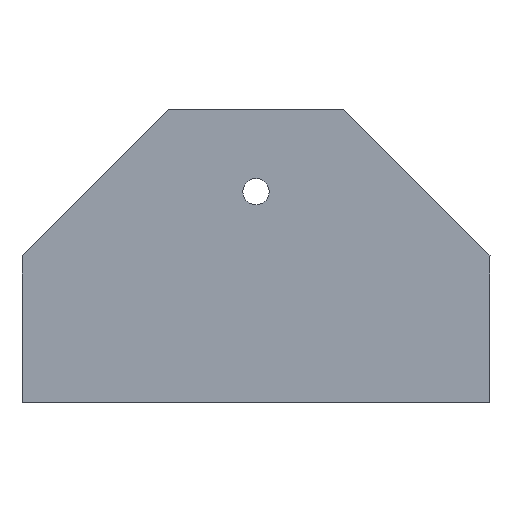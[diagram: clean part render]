
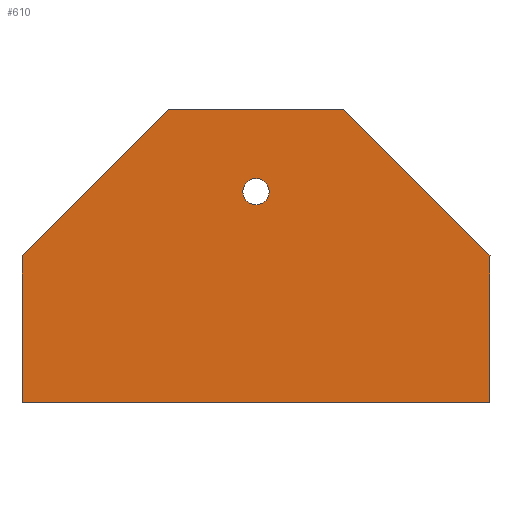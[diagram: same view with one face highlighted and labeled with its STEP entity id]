
A CAD part, top view. The second image highlights one B-rep face of the part: STEP entity #610.
In plain terms, the highlighted planar face has unit normal (0, 0, 1).
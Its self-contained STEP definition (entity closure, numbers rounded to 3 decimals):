
#303=CIRCLE('',#579,4.5);
#322=ORIENTED_EDGE('',*,*,#433,.T.);
#323=ORIENTED_EDGE('',*,*,#435,.T.);
#324=ORIENTED_EDGE('',*,*,#436,.T.);
#325=ORIENTED_EDGE('',*,*,#437,.T.);
#326=ORIENTED_EDGE('',*,*,#438,.T.);
#327=ORIENTED_EDGE('',*,*,#439,.T.);
#328=ORIENTED_EDGE('',*,*,#440,.T.);
#372=VECTOR('',#520,1.);
#374=VECTOR('',#524,1.);
#375=VECTOR('',#525,1.);
#376=VECTOR('',#526,1.);
#377=VECTOR('',#527,1.);
#378=VECTOR('',#528,1.);
#390=LINE('',#646,#372);
#392=LINE('',#650,#374);
#393=LINE('',#652,#375);
#394=LINE('',#654,#376);
#395=LINE('',#656,#377);
#396=LINE('',#657,#378);
#408=VERTEX_POINT('',#643);
#409=VERTEX_POINT('',#645);
#410=VERTEX_POINT('',#649);
#411=VERTEX_POINT('',#651);
#412=VERTEX_POINT('',#653);
#413=VERTEX_POINT('',#655);
#414=VERTEX_POINT('',#658);
#433=EDGE_CURVE('',#409,#408,#390,.T.);
#435=EDGE_CURVE('',#408,#410,#392,.T.);
#436=EDGE_CURVE('',#410,#411,#393,.T.);
#437=EDGE_CURVE('',#411,#412,#394,.T.);
#438=EDGE_CURVE('',#412,#413,#395,.T.);
#439=EDGE_CURVE('',#413,#409,#396,.T.);
#440=EDGE_CURVE('',#414,#414,#303,.T.);
#455=EDGE_LOOP('',(#322,#323,#324,#325,#326,#327));
#456=EDGE_LOOP('',(#328));
#481=FACE_BOUND('',#455,.T.);
#482=FACE_BOUND('',#456,.T.);
#520=DIRECTION('',(0.,-50.,0.));
#522=DIRECTION('',(0.,0.,1.));
#523=DIRECTION('',(0.,-1.,0.));
#524=DIRECTION('',(160.,0.,0.));
#525=DIRECTION('',(0.,50.,0.));
#526=DIRECTION('',(-50.,50.,0.));
#527=DIRECTION('',(-60.,0.,0.));
#528=DIRECTION('',(-50.,-50.,0.));
#529=DIRECTION('',(0.,0.,-1.));
#530=DIRECTION('',(-4.5,0.,0.));
#578=AXIS2_PLACEMENT_3D('',#648,#522,#523);
#579=AXIS2_PLACEMENT_3D('',#659,#529,#530);
#602=PLANE('',#578);
#610=ADVANCED_FACE('',(#481,#482),#602,.T.);
#643=CARTESIAN_POINT('',(-160.,0.,12.));
#645=CARTESIAN_POINT('',(-160.,50.,12.));
#646=CARTESIAN_POINT('',(-160.,50.,12.));
#648=CARTESIAN_POINT('',(-160.,50.,12.));
#649=CARTESIAN_POINT('',(0.,0.,12.));
#650=CARTESIAN_POINT('',(-160.,0.,12.));
#651=CARTESIAN_POINT('',(0.,50.,12.));
#652=CARTESIAN_POINT('',(0.,0.,12.));
#653=CARTESIAN_POINT('',(-50.,100.,12.));
#654=CARTESIAN_POINT('',(0.,50.,12.));
#655=CARTESIAN_POINT('',(-110.,100.,12.));
#656=CARTESIAN_POINT('',(-50.,100.,12.));
#657=CARTESIAN_POINT('',(-110.,100.,12.));
#658=CARTESIAN_POINT('',(-84.5,72.,12.));
#659=CARTESIAN_POINT('',(-80.,72.,12.));
